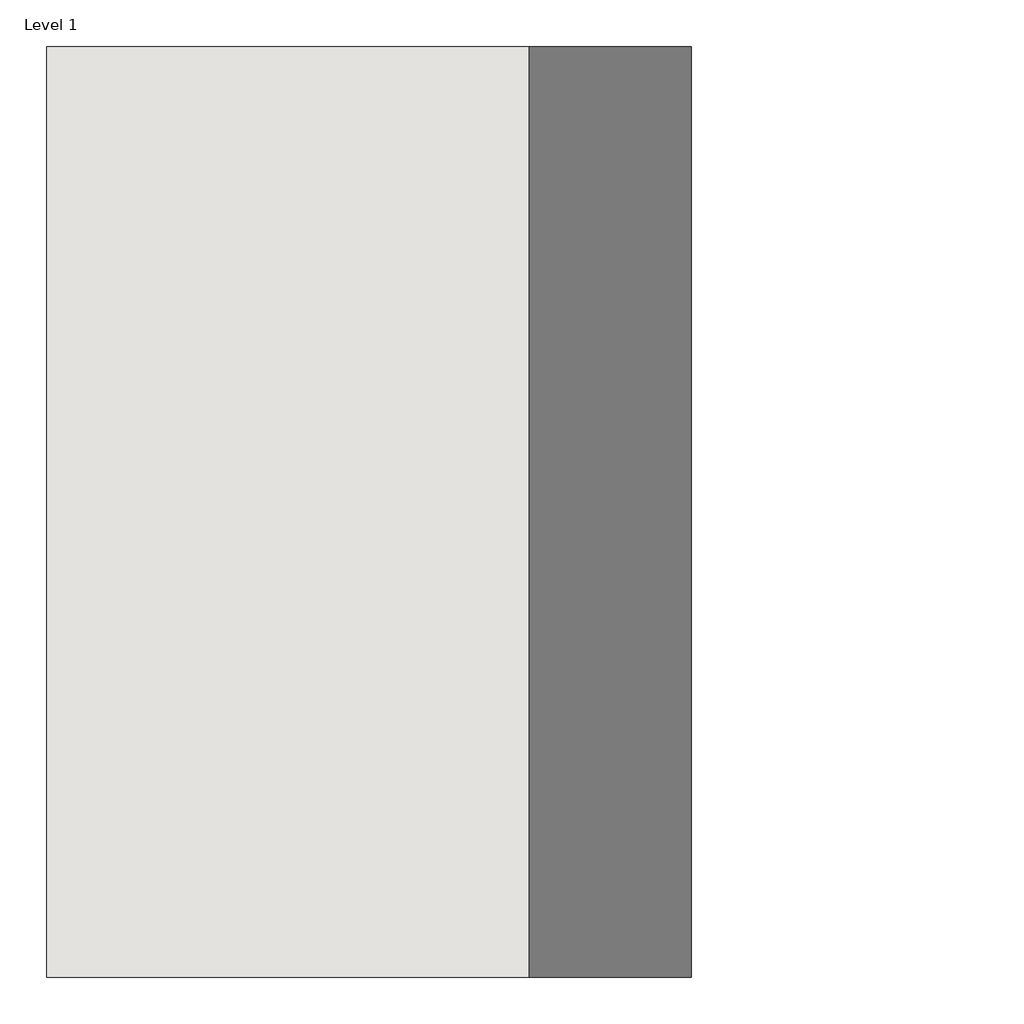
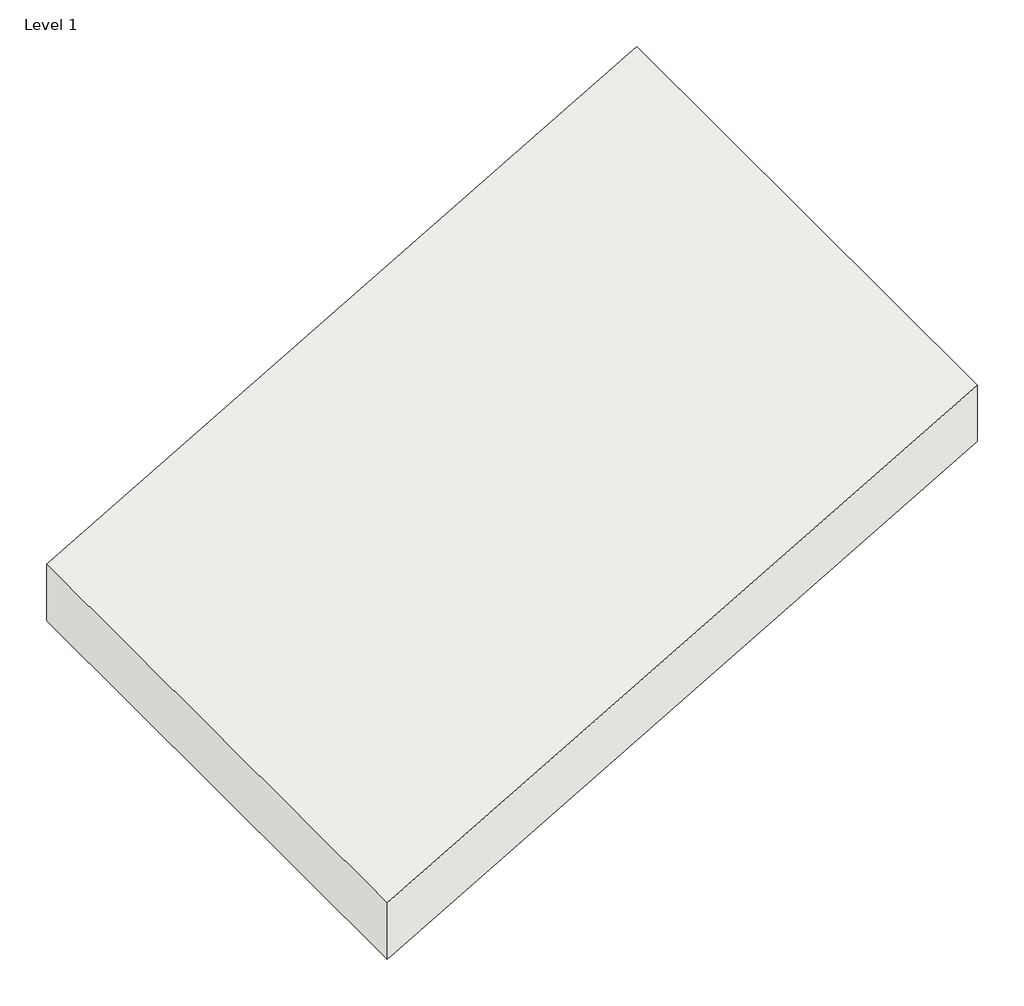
# One storey: 1 roof.
"""IFC4 building model written with IfcOpenShell, lengths in millimetres."""

from ifc_helpers import new_model, si_unit, frame, origin, place, context, project, spatial, polyline, outline, extrude, element, save

model = new_model("IFC4")

# Units and contexts
model_context = context("Model", 3, world=origin())
ifc_project = project(units=[si_unit("LENGTHUNIT", "METRE", prefix="MILLI")], contexts=[model_context])

# Site, building, storey
site = spatial("IfcSite", under=ifc_project)
building = spatial("IfcBuilding", under=site)
storey = spatial("IfcBuildingStorey", under=building, Name="Level 1", Elevation=0.0)

# Roof
placement = place(None, origin())
element("IfcRoof", 1, ObjectType="RIGIPS - 4.70.04", at=placement, inside=storey, context=model_context, shape_type="SweptSolid", body=[
    extrude(outline(polyline([(2035.1596989, 1500.0), (303.1088913, -1500.0), (0.0, -1500.0), (1732.0508076, 1500.0), (2035.1596989, 1500.0)])), frame((0.0, -1500.0, 0.0), z_axis=(0.0, 1.0, 0.0), x_axis=(0.0, 0.0, 1.0)), (0.0, 0.0, 1.0), 3000.0),
])

save(model, "model.ifc")
